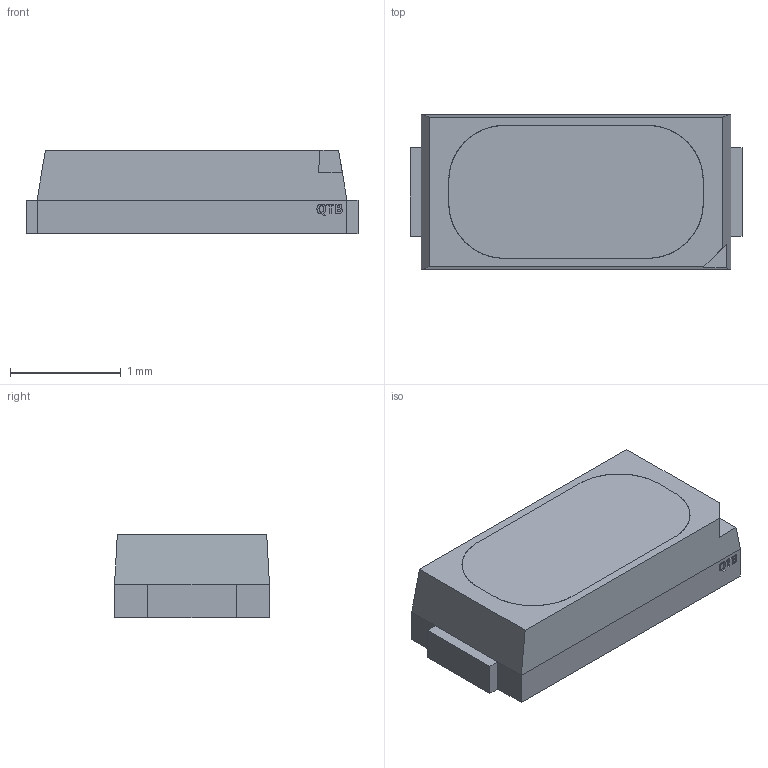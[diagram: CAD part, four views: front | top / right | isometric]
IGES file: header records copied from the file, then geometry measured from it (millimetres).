
Start section: Data from Parasolid IGES Translator 23.1.110, Copyright(c) 2006 Siemens PLM Software. All Rights Reserved.
Global section: file name: 5fab118b1000980e77fab175.iges; native system: By Siemens PLM Incorporated; preprocessor: XPlus GENERIC/IGES 23.1.110; author: Noname; organization: Noname; date: 20201110.221747; units: metre
Bounding box: 3 x 1.4 x 0.75 mm (x, y, z)
Surface area: 27.3 mm2 (no closed solid volume)
Topology: 0 solids, 0 shells, 126 faces, 702 edges, 702 vertices
Faces by surface type: extrusion 118, bspline 8
